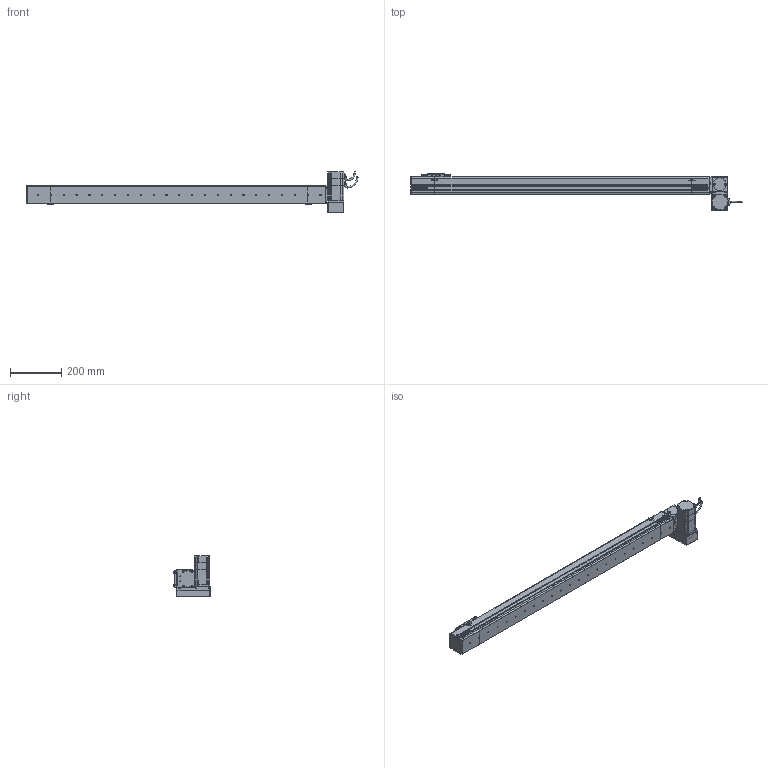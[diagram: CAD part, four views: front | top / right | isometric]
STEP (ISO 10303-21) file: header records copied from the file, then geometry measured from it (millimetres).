
FILE_DESCRIPTION (( 'STEP AP214' ), '1' );
FILE_NAME ('S07 CBN RU S1000.STEP', '2010-06-29T10:15:42', ( 'Conseil Régional Haute-Normandie' ), ( 'Conseil Régional Haute-Normandie' ), 'SwSTEP 2.0', 'SolidWorks 2010', '' );
FILE_SCHEMA (( 'AUTOMOTIVE_DESIGN' ));
Length unit declared in the file: millimetre
Products named in the file (31): S07 CBN RU S1000; vis M5 L8_Default; support chariot_Default; chariot_Default; Chariot S07_Default; vis M5 L15_Default; plaque de serrage Tail_Default; Plaque de bout Tail_Default; Couvercle Tail_Default; Couvercle RU_Default; Corp RU_Default; Head RU_Default; Rondelle de Serrage RU_Default; plaque de serrage RU_Default; Plaque de bout RU_Default; P1_Default; 60BLDC90A-640_Default; Cache Support Moteur RU_Default; Support Moteur RU_Default; P4_Default; P3 90A_Default; P2 90A_Default; Conecteur2 60BLDC_Default; Conecteur 60BLDC_Default; Axe 60BLDC_Default; Corp S07 S1000_Default; VisM3_Default; Corp Tail_Default; Tail S07 Tail_Default; Couvercle S07 S1000_Default
Assembly tree (71 placements, depth 4):
  S07 CBN RU S1000
    Chariot S07_Default
      vis M5 L8_Default  x8
      chariot_Default
      support chariot_Default
    Tail S07 Tail_Default
      Corp Tail_Default
      vis M5 L15_Default  x6
      plaque de serrage Tail_Default
      Couvercle Tail_Default
      Plaque de bout Tail_Default
    Head RU_Default
      Corp RU_Default
      vis M5 L15_Default  x16
      Support Moteur RU_Default
      Rondelle de Serrage RU_Default  x3
      Cache Support Moteur RU_Default
      60BLDC90A-640_Default
        VisM3_Default  x12
        P1_Default
        Conecteur 60BLDC_Default
        P2 90A_Default
        Axe 60BLDC_Default
        P3 90A_Default
        Conecteur2 60BLDC_Default
        P4_Default
      Couvercle RU_Default
      Plaque de bout RU_Default
      plaque de serrage RU_Default
    Corp S07 S1000_Default
      Couvercle S07 S1000_Default
      Corp S07 S1000_Default
Bounding box: 1293.2 x 142 x 162 mm (x, y, z)
Volume: 6115479.5 mm3; surface area: 761227.5 mm2
Topology: 108 solids, 108 shells, 3910 faces, 9626 edges, 6196 vertices
Faces by surface type: plane 2256, bspline 756, cylinder 687, torus 112, cone 95, sphere 4
Entity records: 153833 total; most frequent: CARTESIAN_POINT 79669, ORIENTED_EDGE 14772, DIRECTION 11059, EDGE_CURVE 7386, VERTEX_POINT 4881, LINE 4785, VECTOR 4785, EDGE_LOOP 3173
